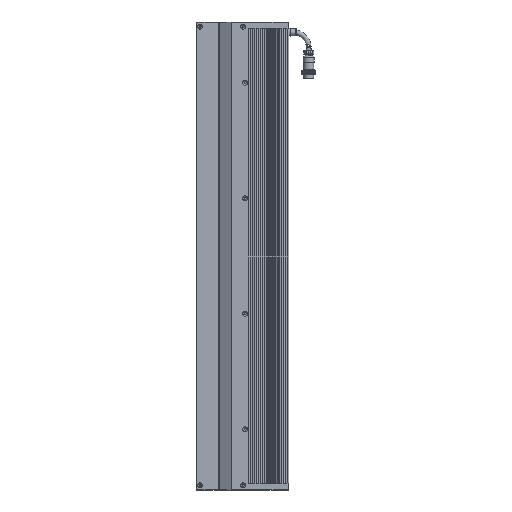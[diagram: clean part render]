
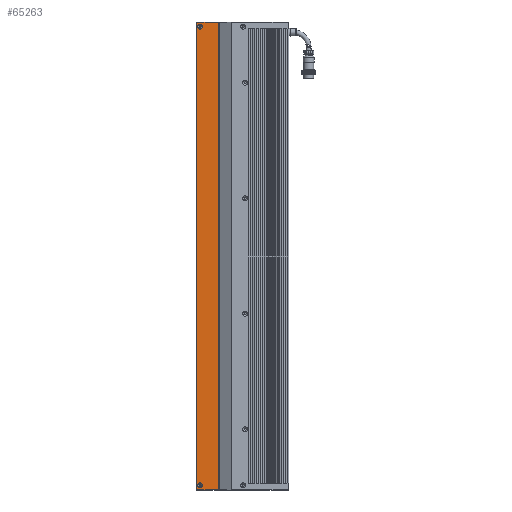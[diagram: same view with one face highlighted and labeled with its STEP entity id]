
A CAD part, left-side view. The second image highlights one B-rep face of the part: STEP entity #65263.
In plain terms, the highlighted planar face has unit normal (-1, 0, 0).
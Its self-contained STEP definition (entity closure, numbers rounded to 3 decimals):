
#384 = VERTEX_POINT ( 'NONE', #34868 ) ;
#1294 = CARTESIAN_POINT ( 'NONE',  ( -15.462, 16.939, 724.65 ) ) ;
#3368 = VERTEX_POINT ( 'NONE', #108665 ) ;
#8659 = ORIENTED_EDGE ( 'NONE', *, *, #82008, .F. ) ;
#9081 = AXIS2_PLACEMENT_3D ( 'NONE', #99284, #118432, #78767 ) ;
#10206 = AXIS2_PLACEMENT_3D ( 'NONE', #54964, #74532, #74964 ) ;
#13182 = LINE ( 'NONE', #84161, #37495 ) ;
#17171 = DIRECTION ( 'NONE',  ( 0., -1., 0. ) ) ;
#22283 = VERTEX_POINT ( 'NONE', #43916 ) ;
#22562 = ORIENTED_EDGE ( 'NONE', *, *, #28931, .F. ) ;
#23994 = LINE ( 'NONE', #113894, #124768 ) ;
#25313 = AXIS2_PLACEMENT_3D ( 'NONE', #96201, #28334, #95363 ) ;
#25699 = VERTEX_POINT ( 'NONE', #121122 ) ;
#27749 = CARTESIAN_POINT ( 'NONE',  ( -15.462, -6.987, 120. ) ) ;
#27783 = ORIENTED_EDGE ( 'NONE', *, *, #101434, .F. ) ;
#27812 = CIRCLE ( 'NONE', #25313, 3.15 ) ;
#28334 = DIRECTION ( 'NONE',  ( -1., 0., 0. ) ) ;
#28931 = EDGE_CURVE ( 'NONE', #25699, #384, #13182, .T. ) ;
#31744 = FACE_BOUND ( 'NONE', #82789, .T. ) ;
#34868 = CARTESIAN_POINT ( 'NONE',  ( -15.462, -6.987, 727. ) ) ;
#36258 = CARTESIAN_POINT ( 'NONE',  ( -15.462, -7.561, 120. ) ) ;
#36629 = ORIENTED_EDGE ( 'NONE', *, *, #59321, .F. ) ;
#37495 = VECTOR ( 'NONE', #17171, 1000. ) ;
#40498 = LINE ( 'NONE', #124442, #54171 ) ;
#41104 = EDGE_LOOP ( 'NONE', ( #27783, #42654, #8659, #22562 ) ) ;
#42654 = ORIENTED_EDGE ( 'NONE', *, *, #124077, .F. ) ;
#43916 = CARTESIAN_POINT ( 'NONE',  ( -15.462, 16.939, 128.65 ) ) ;
#46418 = PLANE ( 'NONE',  #10206 ) ;
#54171 = VECTOR ( 'NONE', #115024, 1000. ) ;
#54964 = CARTESIAN_POINT ( 'NONE',  ( -15.462, -7.561, 725.5 ) ) ;
#59321 = EDGE_CURVE ( 'NONE', #68016, #68016, #125310, .T. ) ;
#65263 = ADVANCED_FACE ( 'NONE', ( #31744, #126356, #100437 ), #46418, .F. ) ;
#68016 = VERTEX_POINT ( 'NONE', #1294 ) ;
#74532 = DIRECTION ( 'NONE',  ( 1., 0., 0. ) ) ;
#74964 = DIRECTION ( 'NONE',  ( 0., 0., -1. ) ) ;
#76849 = EDGE_LOOP ( 'NONE', ( #36629 ) ) ;
#78767 = DIRECTION ( 'NONE',  ( 0., 0., 1. ) ) ;
#82008 = EDGE_CURVE ( 'NONE', #384, #113967, #23994, .T. ) ;
#82789 = EDGE_LOOP ( 'NONE', ( #101523 ) ) ;
#84161 = CARTESIAN_POINT ( 'NONE',  ( -15.462, -7.561, 727. ) ) ;
#89297 = EDGE_CURVE ( 'NONE', #22283, #22283, #27812, .T. ) ;
#91916 = VECTOR ( 'NONE', #104553, 1000. ) ;
#95363 = DIRECTION ( 'NONE',  ( 0., 0., 1. ) ) ;
#96201 = CARTESIAN_POINT ( 'NONE',  ( -15.462, 16.939, 125.5 ) ) ;
#99284 = CARTESIAN_POINT ( 'NONE',  ( -15.462, 16.939, 721.5 ) ) ;
#100437 = FACE_OUTER_BOUND ( 'NONE', #41104, .T. ) ;
#101434 = EDGE_CURVE ( 'NONE', #3368, #25699, #40498, .T. ) ;
#101523 = ORIENTED_EDGE ( 'NONE', *, *, #89297, .F. ) ;
#104553 = DIRECTION ( 'NONE',  ( 0., 1., 0. ) ) ;
#108665 = CARTESIAN_POINT ( 'NONE',  ( -15.462, 21.439, 120. ) ) ;
#113201 = LINE ( 'NONE', #36258, #91916 ) ;
#113894 = CARTESIAN_POINT ( 'NONE',  ( -15.462, -6.987, 725.5 ) ) ;
#113967 = VERTEX_POINT ( 'NONE', #27749 ) ;
#114730 = DIRECTION ( 'NONE',  ( 0., 0., -1. ) ) ;
#115024 = DIRECTION ( 'NONE',  ( 0., 0., 1. ) ) ;
#118432 = DIRECTION ( 'NONE',  ( -1., 0., 0. ) ) ;
#121122 = CARTESIAN_POINT ( 'NONE',  ( -15.462, 21.439, 727. ) ) ;
#124077 = EDGE_CURVE ( 'NONE', #113967, #3368, #113201, .T. ) ;
#124442 = CARTESIAN_POINT ( 'NONE',  ( -15.462, 21.439, 725.5 ) ) ;
#124768 = VECTOR ( 'NONE', #114730, 1000. ) ;
#125310 = CIRCLE ( 'NONE', #9081, 3.15 ) ;
#126356 = FACE_BOUND ( 'NONE', #76849, .T. ) ;
